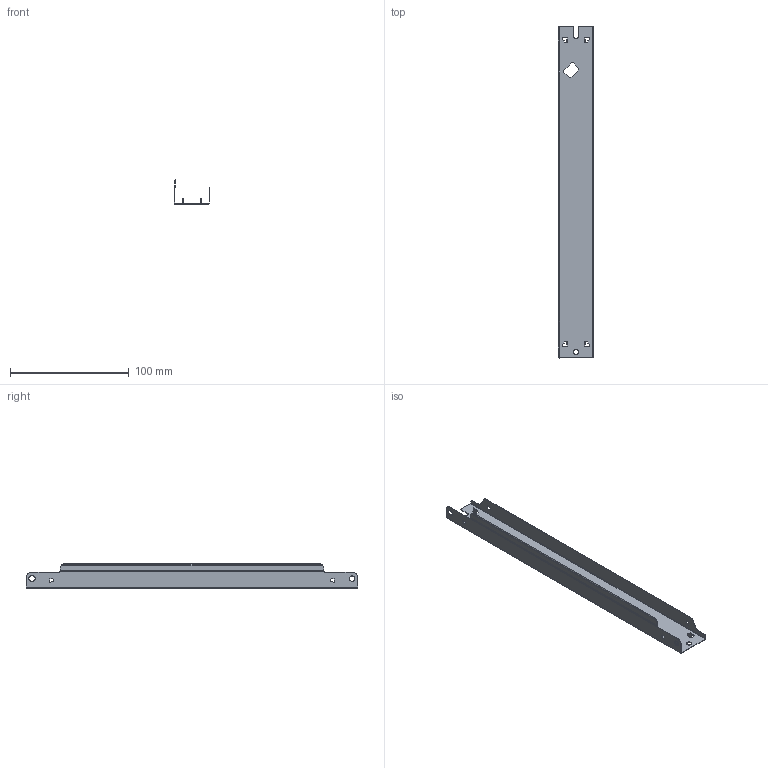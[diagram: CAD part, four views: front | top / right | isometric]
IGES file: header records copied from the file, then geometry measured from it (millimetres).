
Global section: file name: Filename.iges; native system: Open CASCADE 7.3; preprocessor: Open CASCADE IGES processor 7.3; date: 20201029.063438; units: millimetre
Bounding box: 30 x 280 x 20.3 mm (x, y, z)
Surface area: 32929.3 mm2 (no closed solid volume)
Topology: 0 solids, 0 shells, 118 faces, 1282 edges, 1282 vertices
Faces by surface type: bspline 85, revolution 33
